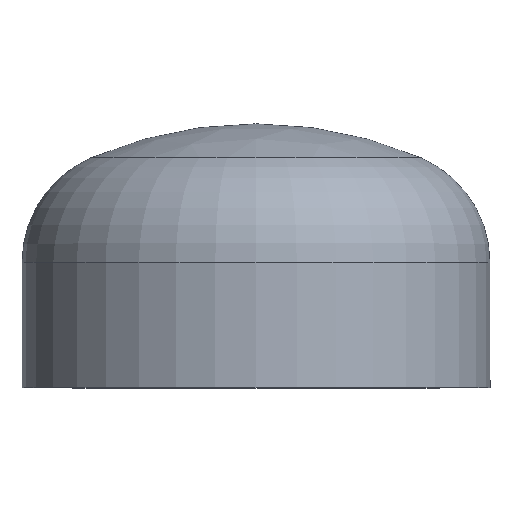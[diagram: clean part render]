
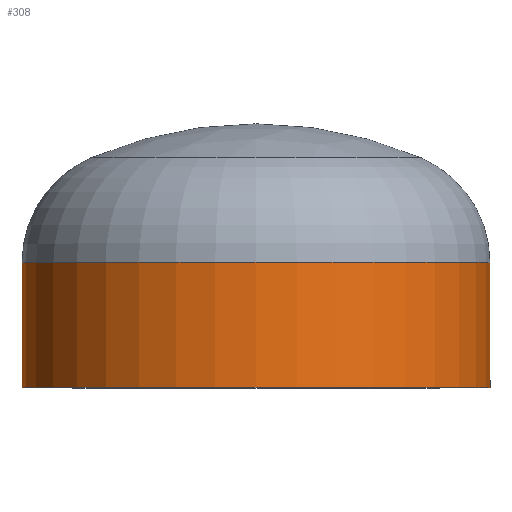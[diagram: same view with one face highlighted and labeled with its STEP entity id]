
A CAD part, top view. The second image highlights one B-rep face of the part: STEP entity #308.
In plain terms, the highlighted cylindrical face has radius 84.15 mm (diameter 168.3 mm), a partial arc.
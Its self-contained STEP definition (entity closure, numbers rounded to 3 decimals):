
#8 = CARTESIAN_POINT ( 'NONE',  ( -84.15, 45., 0. ) ) ;
#27 = AXIS2_PLACEMENT_3D ( 'NONE', #224, #378, #42 ) ;
#30 = EDGE_LOOP ( 'NONE', ( #161, #103, #114, #311 ) ) ;
#32 = VERTEX_POINT ( 'NONE', #8 ) ;
#42 = DIRECTION ( 'NONE',  ( 1., 0., 0. ) ) ;
#49 = DIRECTION ( 'NONE',  ( 0., -1., 0. ) ) ;
#58 = AXIS2_PLACEMENT_3D ( 'NONE', #227, #295, #96 ) ;
#96 = DIRECTION ( 'NONE',  ( 1., 0., 0. ) ) ;
#103 = ORIENTED_EDGE ( 'NONE', *, *, #351, .T. ) ;
#107 = DIRECTION ( 'NONE',  ( 1., 0., 0. ) ) ;
#114 = ORIENTED_EDGE ( 'NONE', *, *, #345, .F. ) ;
#115 = VERTEX_POINT ( 'NONE', #249 ) ;
#137 = AXIS2_PLACEMENT_3D ( 'NONE', #291, #300, #107 ) ;
#143 = VERTEX_POINT ( 'NONE', #187 ) ;
#161 = ORIENTED_EDGE ( 'NONE', *, *, #410, .T. ) ;
#187 = CARTESIAN_POINT ( 'NONE',  ( 84.15, 45., 0. ) ) ;
#224 = CARTESIAN_POINT ( 'NONE',  ( 0., 0., 0. ) ) ;
#225 = CIRCLE ( 'NONE', #137, 84.15 ) ;
#227 = CARTESIAN_POINT ( 'NONE',  ( 0., 0., 0. ) ) ;
#244 = LINE ( 'NONE', #301, #292 ) ;
#248 = VERTEX_POINT ( 'NONE', #360 ) ;
#249 = CARTESIAN_POINT ( 'NONE',  ( 84.15, 0., 0. ) ) ;
#252 = CIRCLE ( 'NONE', #58, 84.15 ) ;
#274 = CARTESIAN_POINT ( 'NONE',  ( -84.15, 0., 0. ) ) ;
#291 = CARTESIAN_POINT ( 'NONE',  ( 0., 45., 0. ) ) ;
#292 = VECTOR ( 'NONE', #359, 1000. ) ;
#295 = DIRECTION ( 'NONE',  ( 0., -1., 0. ) ) ;
#300 = DIRECTION ( 'NONE',  ( 0., -1., 0. ) ) ;
#301 = CARTESIAN_POINT ( 'NONE',  ( 84.15, 0., 0. ) ) ;
#302 = VECTOR ( 'NONE', #49, 1000. ) ;
#308 = ADVANCED_FACE ( 'NONE', ( #373 ), #309, .T. ) ;
#309 = CYLINDRICAL_SURFACE ( 'NONE', #27, 84.15 ) ;
#311 = ORIENTED_EDGE ( 'NONE', *, *, #364, .F. ) ;
#345 = EDGE_CURVE ( 'NONE', #115, #248, #252, .T. ) ;
#351 = EDGE_CURVE ( 'NONE', #32, #248, #357, .T. ) ;
#357 = LINE ( 'NONE', #274, #302 ) ;
#359 = DIRECTION ( 'NONE',  ( 0., -1., 0. ) ) ;
#360 = CARTESIAN_POINT ( 'NONE',  ( -84.15, 0., 0. ) ) ;
#364 = EDGE_CURVE ( 'NONE', #143, #115, #244, .T. ) ;
#373 = FACE_OUTER_BOUND ( 'NONE', #30, .T. ) ;
#378 = DIRECTION ( 'NONE',  ( 0., -1., 0. ) ) ;
#410 = EDGE_CURVE ( 'NONE', #143, #32, #225, .T. ) ;
